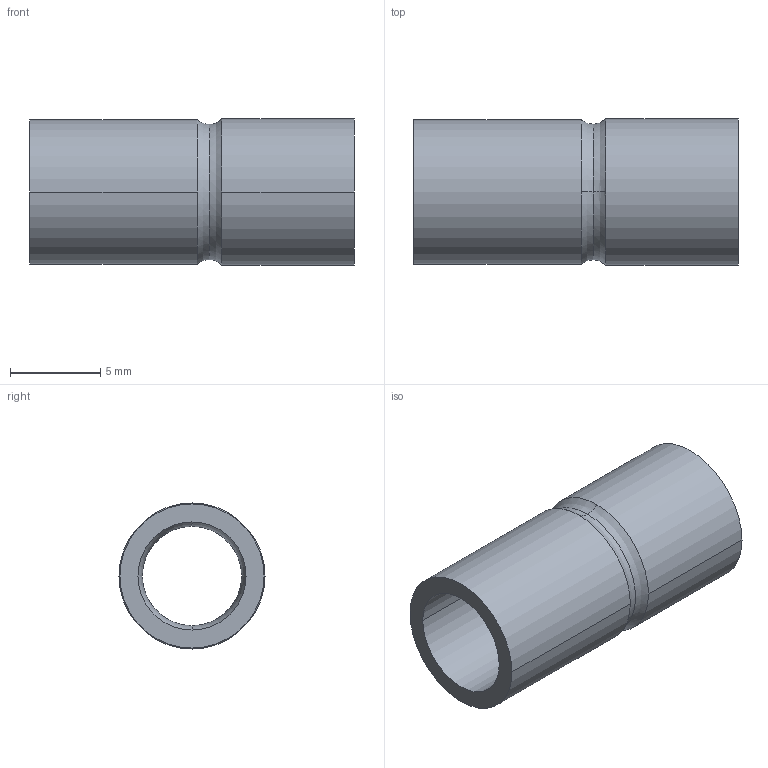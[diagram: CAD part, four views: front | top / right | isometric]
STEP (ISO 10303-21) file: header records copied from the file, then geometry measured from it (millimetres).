
FILE_DESCRIPTION((''),'2;1');
FILE_NAME('G:\Technics\CAD\Bauteile\Serie 15243\1524386.stp','2005-10-21T12:49:27',('boden'),(''),'Autodesk Inventor 8','Autodesk Inventor 8','');
FILE_SCHEMA(('AUTOMOTIVE_DESIGN { 1 0 10303 214 1 1 1 1 }'));
Length unit declared in the file: millimetre
Products named in the file (1): 1524386
Bounding box: 18 x 8.11 x 8.11 mm (x, y, z)
Volume: 399.1 mm3; surface area: 842.9 mm2
Topology: 1 solids, 1 shells, 18 faces, 44 edges, 28 vertices
Faces by surface type: cylinder 8, torus 4, bspline 4, plane 2
Entity records: 739 total; most frequent: CARTESIAN_POINT 267, DIRECTION 110, ORIENTED_EDGE 88, AXIS2_PLACEMENT_3D 51, EDGE_CURVE 44, CIRCLE 36, VERTEX_POINT 28, EDGE_LOOP 20
